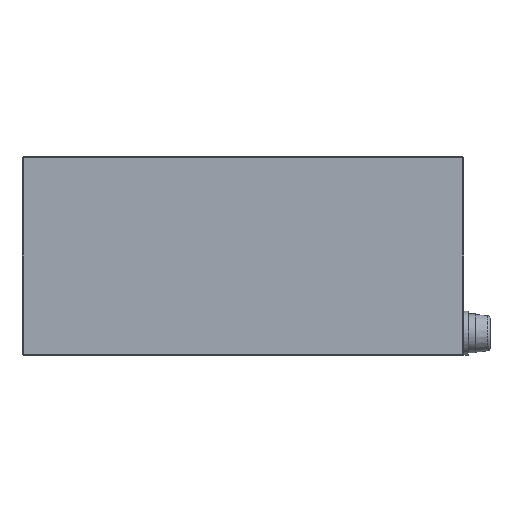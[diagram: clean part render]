
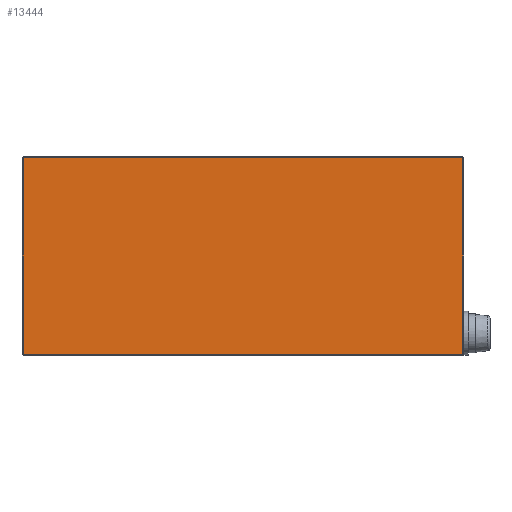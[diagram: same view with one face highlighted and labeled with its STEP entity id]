
A CAD part, front view. The second image highlights one B-rep face of the part: STEP entity #13444.
In plain terms, the highlighted planar face has unit normal (0, -1, 0).
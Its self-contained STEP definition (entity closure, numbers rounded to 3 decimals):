
#273 = EDGE_CURVE ( 'NONE', #14650, #6878, #14744, .T. ) ;
#352 = CARTESIAN_POINT ( 'NONE',  ( 0.3, -22.5, -22.5 ) ) ;
#553 = EDGE_LOOP ( 'NONE', ( #19639, #3928, #8424, #3920 ) ) ;
#720 = CARTESIAN_POINT ( 'NONE',  ( 0.3, -22.5, 22.2 ) ) ;
#734 = FACE_OUTER_BOUND ( 'NONE', #553, .T. ) ;
#744 = PLANE ( 'NONE',  #13253 ) ;
#3740 = VECTOR ( 'NONE', #15016, 1000. ) ;
#3920 = ORIENTED_EDGE ( 'NONE', *, *, #273, .T. ) ;
#3928 = ORIENTED_EDGE ( 'NONE', *, *, #9351, .T. ) ;
#4456 = CARTESIAN_POINT ( 'NONE',  ( 100., -22.5, -22.2 ) ) ;
#5079 = CARTESIAN_POINT ( 'NONE',  ( 100., -22.5, 22.2 ) ) ;
#6637 = LINE ( 'NONE', #4456, #3740 ) ;
#6857 = DIRECTION ( 'NONE',  ( 0., 1., 0. ) ) ;
#6878 = VERTEX_POINT ( 'NONE', #720 ) ;
#7504 = EDGE_CURVE ( 'NONE', #6878, #19470, #15664, .T. ) ;
#8109 = VECTOR ( 'NONE', #15461, 1000. ) ;
#8424 = ORIENTED_EDGE ( 'NONE', *, *, #10962, .T. ) ;
#9351 = EDGE_CURVE ( 'NONE', #19470, #10373, #6637, .T. ) ;
#10304 = CARTESIAN_POINT ( 'NONE',  ( 99.7, -22.5, 22.5 ) ) ;
#10373 = VERTEX_POINT ( 'NONE', #19139 ) ;
#10962 = EDGE_CURVE ( 'NONE', #10373, #14650, #16207, .T. ) ;
#11021 = DIRECTION ( 'NONE',  ( -1., 0., 0. ) ) ;
#11669 = VECTOR ( 'NONE', #11021, 1000. ) ;
#12457 = VECTOR ( 'NONE', #17974, 1000. ) ;
#13253 = AXIS2_PLACEMENT_3D ( 'NONE', #15954, #6857, #14518 ) ;
#13444 = ADVANCED_FACE ( 'NONE', ( #734 ), #744, .F. ) ;
#14518 = DIRECTION ( 'NONE',  ( 0., 0., 1. ) ) ;
#14650 = VERTEX_POINT ( 'NONE', #18255 ) ;
#14744 = LINE ( 'NONE', #5079, #11669 ) ;
#15016 = DIRECTION ( 'NONE',  ( 1., 0., 0. ) ) ;
#15461 = DIRECTION ( 'NONE',  ( 0., 0., -1. ) ) ;
#15664 = LINE ( 'NONE', #352, #8109 ) ;
#15954 = CARTESIAN_POINT ( 'NONE',  ( 100., -22.5, 22.5 ) ) ;
#16207 = LINE ( 'NONE', #10304, #12457 ) ;
#17974 = DIRECTION ( 'NONE',  ( 0., 0., 1. ) ) ;
#18255 = CARTESIAN_POINT ( 'NONE',  ( 99.7, -22.5, 22.2 ) ) ;
#18472 = CARTESIAN_POINT ( 'NONE',  ( 0.3, -22.5, -22.2 ) ) ;
#19139 = CARTESIAN_POINT ( 'NONE',  ( 99.7, -22.5, -22.2 ) ) ;
#19470 = VERTEX_POINT ( 'NONE', #18472 ) ;
#19639 = ORIENTED_EDGE ( 'NONE', *, *, #7504, .T. ) ;
